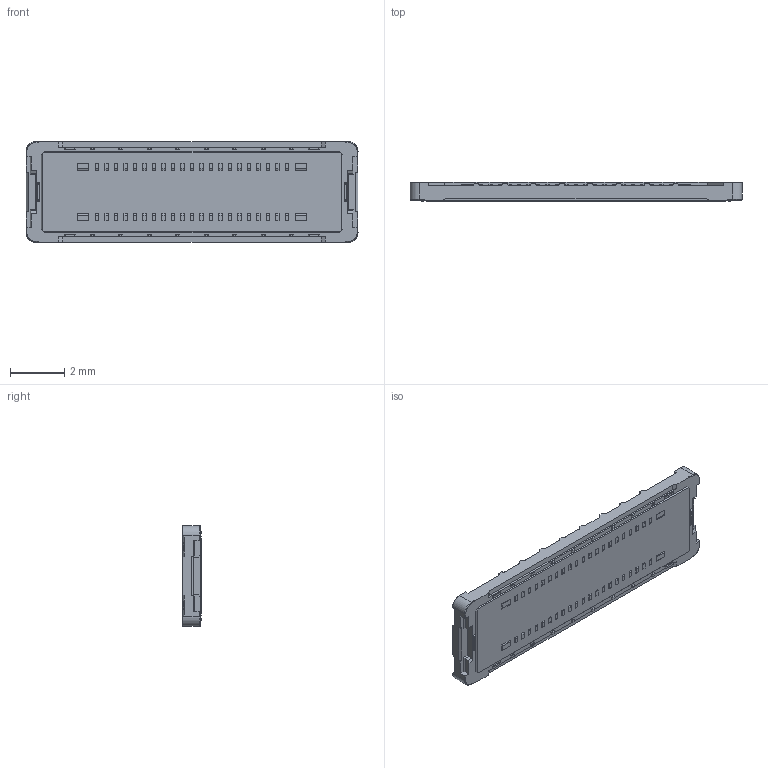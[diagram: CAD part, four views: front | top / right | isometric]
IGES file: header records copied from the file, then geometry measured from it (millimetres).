
Start section: SolidWorks IGES file using analytic representation for surfaces
Bounding box: 12.24 x 0.7 x 3.7 mm (x, y, z)
Surface area: 117.6 mm2 (no closed solid volume)
Topology: 0 solids, 0 shells, 831 faces, 4760 edges, 4760 vertices
Faces by surface type: bspline 625, revolution 206
